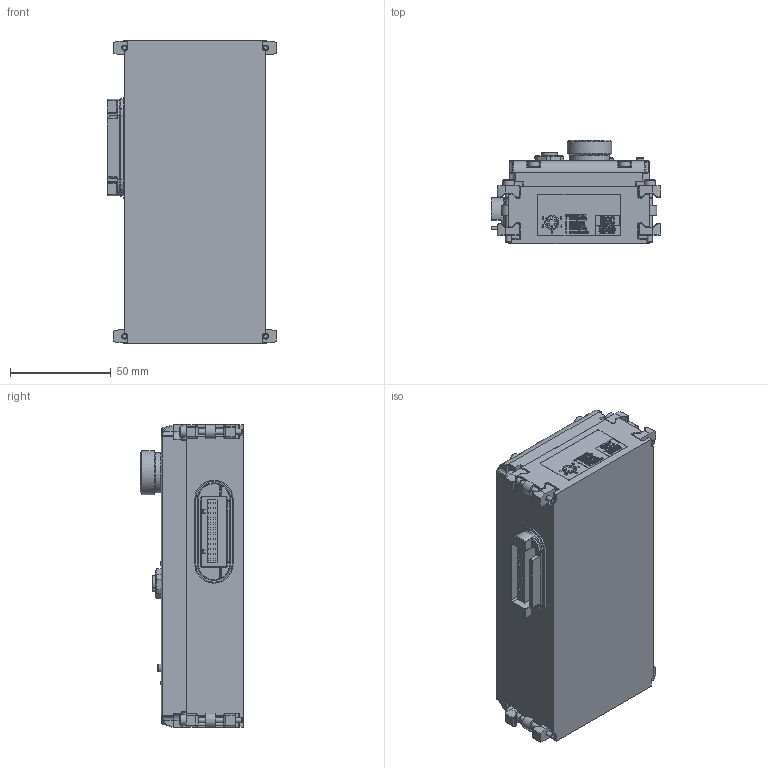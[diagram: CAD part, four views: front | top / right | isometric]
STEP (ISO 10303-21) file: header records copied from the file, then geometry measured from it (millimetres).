
FILE_DESCRIPTION (( 'STEP AP214' ), '1' );
FILE_NAME ('MIO67A-CM-PN-01.STEP', '2019-07-09T14:03:21', ( 'user' ), ( '' ), 'SwSTEP 2.0', 'SolidWorks 2014', '' );
FILE_SCHEMA (( 'AUTOMOTIVE_DESIGN' ));
Length unit declared in the file: millimetre
Products named in the file (1): MIO67A-CM-PN-01
Bounding box: 84.1 x 51.2 x 150.06 mm (x, y, z)
Volume: 422036.6 mm3; surface area: 79684.4 mm2
Topology: 78 solids, 82 shells, 4687 faces, 11914 edges, 7703 vertices
Faces by surface type: plane 2908, bspline 953, cylinder 545, torus 172, cone 82, sphere 27
Full cylindrical faces by diameter (mm): 1 x5, 1.06 x2, 1.15 x8, 1.3 x2, 1.588 x8, 1.75 x2, 2 x5, 2.2 x2, 2.6 x4, 2.78 x4, 3 x4, 3.2 x4, 3.325 x7, 3.5 x7, 3.8 x2, 4.5 x2, 4.65 x8, 4.7 x4, 5.5 x10, 7 x1, 11.035 x2, 13.6 x2, 18.15 x1, 19.8 x1, 22.068 x1, 23 x1
Entity records: 233078 total; most frequent: CARTESIAN_POINT 75095, ORIENTED_EDGE 23228, DIRECTION 18335, EDGE_CURVE 11614, VECTOR 8141, LINE 8141, VERTEX_POINT 7619, EDGE_LOOP 5329
